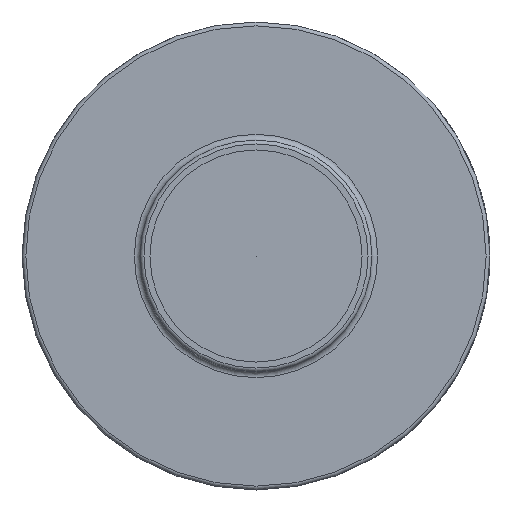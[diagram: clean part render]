
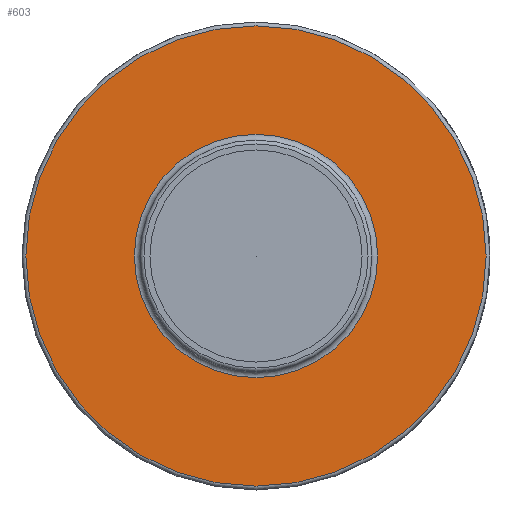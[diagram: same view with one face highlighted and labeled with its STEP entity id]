
A CAD part, left-side view. The second image highlights one B-rep face of the part: STEP entity #603.
In plain terms, the highlighted planar face has unit normal (-1, 0, 0).
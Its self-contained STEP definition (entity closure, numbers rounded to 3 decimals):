
#603 = ADVANCED_FACE( '', ( #1263, #1264 ), #1265, .T. );
#1263 = FACE_OUTER_BOUND( '', #2876, .T. );
#1264 = FACE_BOUND( '', #2877, .T. );
#1265 = PLANE( '', #2878 );
#2876 = EDGE_LOOP( '', ( #4624 ) );
#2877 = EDGE_LOOP( '', ( #4625 ) );
#2878 = AXIS2_PLACEMENT_3D( '', #4626, #4627, #4628 );
#4624 = ORIENTED_EDGE( '', *, *, #5052, .T. );
#4625 = ORIENTED_EDGE( '', *, *, #5462, .F. );
#4626 = CARTESIAN_POINT( '', ( 20.398, 0., 16.605 ) );
#4627 = DIRECTION( '', ( -1., 0., 0. ) );
#4628 = DIRECTION( '', ( 0., 0., 1. ) );
#5052 = EDGE_CURVE( '', #5940, #5940, #5941, .T. );
#5462 = EDGE_CURVE( '', #6520, #6520, #6521, .T. );
#5940 = VERTEX_POINT( '', #7454 );
#5941 = CIRCLE( '', #7455, 31.424 );
#6520 = VERTEX_POINT( '', #8965 );
#6521 = CIRCLE( '', #8966, 16.605 );
#7454 = CARTESIAN_POINT( '', ( 20.398, 0., 31.424 ) );
#7455 = AXIS2_PLACEMENT_3D( '', #9131, #9132, #9133 );
#8965 = CARTESIAN_POINT( '', ( 20.398, 0., 16.605 ) );
#8966 = AXIS2_PLACEMENT_3D( '', #9158, #9159, #9160 );
#9131 = CARTESIAN_POINT( '', ( 20.398, 0., 0. ) );
#9132 = DIRECTION( '', ( -1., 0., 0. ) );
#9133 = DIRECTION( '', ( 0., 0., 1. ) );
#9158 = CARTESIAN_POINT( '', ( 20.398, 0., 0. ) );
#9159 = DIRECTION( '', ( -1., 0., 0. ) );
#9160 = DIRECTION( '', ( 0., 0., 1. ) );
